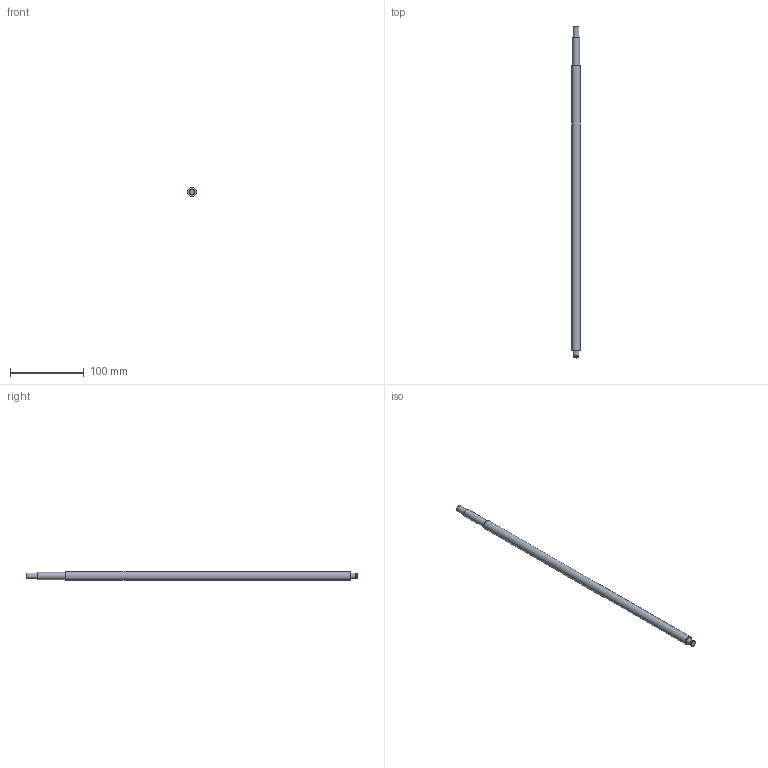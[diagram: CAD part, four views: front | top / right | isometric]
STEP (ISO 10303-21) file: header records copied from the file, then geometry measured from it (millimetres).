
FILE_DESCRIPTION(/* description */ (''),/* implementation_level */ '2;1');
FILE_NAME(/* name */ 'C:\Users\David\Desktop\stepFiles\Profilfuehrung\KUS1204x450.stp',/* time_stamp */ '2018-06-24T15:05:13+02:00',/* author */ ('David'),/* organization */ (''),/* preprocessor_version */ 'ST-DEVELOPER v17',/* originating_system */ 'Autodesk Inventor 2019',/* authorisation */ '');
FILE_SCHEMA (('AUTOMOTIVE_DESIGN { 1 0 10303 214 3 1 1 }'));
Length unit declared in the file: millimetre
Products named in the file (1): SFU1204xvariabel
Bounding box: 12 x 450 x 12 mm (x, y, z)
Volume: 47964.8 mm3; surface area: 16624.9 mm2
Topology: 1 solids, 1 shells, 15 faces, 34 edges, 26 vertices
Faces by surface type: plane 7, cylinder 6, cone 2
Full cylindrical faces by diameter (mm): 7.6 x1, 8 x3, 10 x1, 12 x1
Entity records: 493 total; most frequent: DIRECTION 92, CARTESIAN_POINT 76, ORIENTED_EDGE 68, AXIS2_PLACEMENT_3D 42, EDGE_CURVE 34, CIRCLE 26, VERTEX_POINT 26, EDGE_LOOP 20
